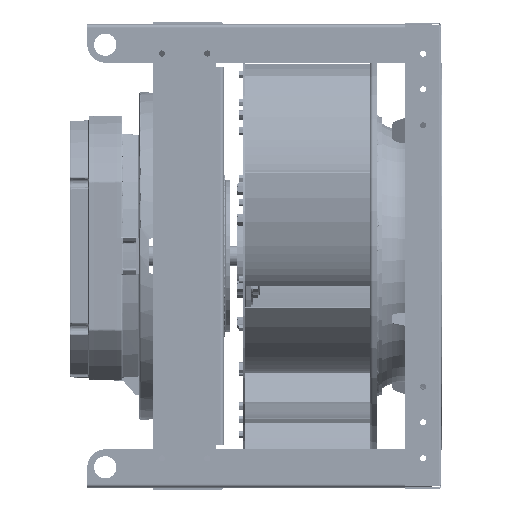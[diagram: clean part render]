
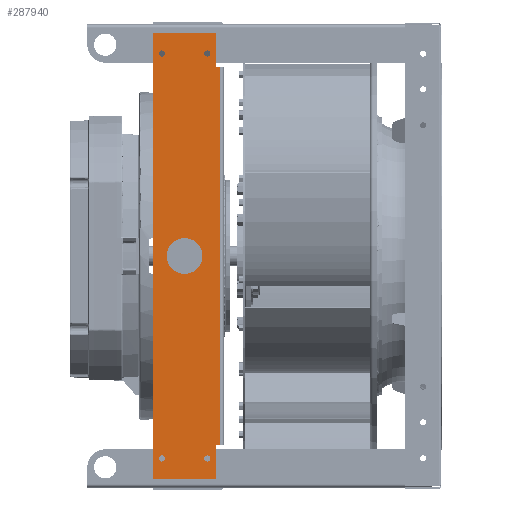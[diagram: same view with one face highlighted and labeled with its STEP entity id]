
A CAD part, front view. The second image highlights one B-rep face of the part: STEP entity #287940.
In plain terms, the highlighted planar face has unit normal (0, -1, 0) as drawn and (0, 0, 1) by its records, which use the part's own axes.
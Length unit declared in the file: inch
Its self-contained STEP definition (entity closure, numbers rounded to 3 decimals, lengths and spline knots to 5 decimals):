
#6348 = CARTESIAN_POINT ( 'NONE',  ( 11.477, -1.27, 0.135 ) ) ;
#7486 = VECTOR ( 'NONE', #222546, 39.37008 ) ;
#13004 = EDGE_LOOP ( 'NONE', ( #179804 ) ) ;
#15139 = CARTESIAN_POINT ( 'NONE',  ( 11.305, 1.27, 0.135 ) ) ;
#17347 = LINE ( 'NONE', #185831, #166985 ) ;
#18585 = AXIS2_PLACEMENT_3D ( 'NONE', #224617, #51705, #190514 ) ;
#19188 = AXIS2_PLACEMENT_3D ( 'NONE', #178562, #71657, #144390 ) ;
#22070 = VERTEX_POINT ( 'NONE', #124534 ) ;
#24883 = AXIS2_PLACEMENT_3D ( 'NONE', #15139, #295095, #153957 ) ;
#27347 = CARTESIAN_POINT ( 'NONE',  ( 10.555, 1.9775, 0.135 ) ) ;
#43781 = ORIENTED_EDGE ( 'NONE', *, *, #408233, .T. ) ;
#44405 = CARTESIAN_POINT ( 'NONE',  ( 10.555, 1.9775, 0.135 ) ) ;
#48629 = VERTEX_POINT ( 'NONE', #247630 ) ;
#49837 = ORIENTED_EDGE ( 'NONE', *, *, #81219, .F. ) ;
#51705 = DIRECTION ( 'NONE',  ( 0., 0., 1. ) ) ;
#52841 = EDGE_CURVE ( 'NONE', #198622, #198622, #291505, .T. ) ;
#57413 = DIRECTION ( 'NONE',  ( 0., -1., 0. ) ) ;
#67557 = ORIENTED_EDGE ( 'NONE', *, *, #147230, .T. ) ;
#69417 = PLANE ( 'NONE',  #19188 ) ;
#70059 = VERTEX_POINT ( 'NONE', #201464 ) ;
#71657 = DIRECTION ( 'NONE',  ( 0., 0., -1. ) ) ;
#76763 = CARTESIAN_POINT ( 'NONE',  ( -12.465, -1.77, 0.135 ) ) ;
#81219 = EDGE_CURVE ( 'NONE', #120884, #335144, #356273, .T. ) ;
#87071 = DIRECTION ( 'NONE',  ( 0., 0., 1. ) ) ;
#87155 = EDGE_CURVE ( 'NONE', #153896, #288620, #218039, .T. ) ;
#87633 = CARTESIAN_POINT ( 'NONE',  ( 12.465, -1.77, 0.135 ) ) ;
#109938 = EDGE_CURVE ( 'NONE', #168103, #168103, #446490, .T. ) ;
#110903 = CARTESIAN_POINT ( 'NONE',  ( -12.465, 1.77, 0.135 ) ) ;
#111154 = DIRECTION ( 'NONE',  ( -1., 0., 0. ) ) ;
#113475 = CARTESIAN_POINT ( 'NONE',  ( -10.555, 1.77, 0.135 ) ) ;
#116564 = VERTEX_POINT ( 'NONE', #76763 ) ;
#117604 = ORIENTED_EDGE ( 'NONE', *, *, #326311, .F. ) ;
#117887 = CARTESIAN_POINT ( 'NONE',  ( -12.465, 1.77, 0.135 ) ) ;
#120884 = VERTEX_POINT ( 'NONE', #27347 ) ;
#124104 = DIRECTION ( 'NONE',  ( 0., 0., 1. ) ) ;
#124534 = CARTESIAN_POINT ( 'NONE',  ( 1., 0., 0.135 ) ) ;
#124973 = DIRECTION ( 'NONE',  ( 0., 0., 1. ) ) ;
#129006 = ORIENTED_EDGE ( 'NONE', *, *, #174705, .F. ) ;
#144390 = DIRECTION ( 'NONE',  ( -1., 0., 0. ) ) ;
#146652 = FACE_BOUND ( 'NONE', #13004, .T. ) ;
#147230 = EDGE_CURVE ( 'NONE', #116564, #48629, #297616, .T. ) ;
#153896 = VERTEX_POINT ( 'NONE', #113475 ) ;
#153957 = DIRECTION ( 'NONE',  ( -1., 0., 0. ) ) ;
#160485 = DIRECTION ( 'NONE',  ( 1., 0., 0. ) ) ;
#166985 = VECTOR ( 'NONE', #254117, 39.37008 ) ;
#167094 = VECTOR ( 'NONE', #270102, 39.37008 ) ;
#168103 = VERTEX_POINT ( 'NONE', #275038 ) ;
#174705 = EDGE_CURVE ( 'NONE', #429812, #429812, #341788, .T. ) ;
#178562 = CARTESIAN_POINT ( 'NONE',  ( 0., 0., 0.135 ) ) ;
#179804 = ORIENTED_EDGE ( 'NONE', *, *, #109938, .F. ) ;
#183090 = FACE_BOUND ( 'NONE', #215546, .T. ) ;
#185831 = CARTESIAN_POINT ( 'NONE',  ( -10.555, 1.9775, 0.135 ) ) ;
#187088 = VECTOR ( 'NONE', #374465, 39.37008 ) ;
#189804 = AXIS2_PLACEMENT_3D ( 'NONE', #264521, #87071, #298685 ) ;
#190514 = DIRECTION ( 'NONE',  ( 1., 0., 0. ) ) ;
#195411 = EDGE_CURVE ( 'NONE', #70059, #335144, #303823, .T. ) ;
#196082 = CIRCLE ( 'NONE', #210629, 1. ) ;
#198622 = VERTEX_POINT ( 'NONE', #346439 ) ;
#201464 = CARTESIAN_POINT ( 'NONE',  ( 12.465, 1.77, 0.135 ) ) ;
#206262 = LINE ( 'NONE', #208471, #167094 ) ;
#208471 = CARTESIAN_POINT ( 'NONE',  ( 10.555, 1.9775, 0.135 ) ) ;
#210629 = AXIS2_PLACEMENT_3D ( 'NONE', #229646, #124973, #263836 ) ;
#212339 = ORIENTED_EDGE ( 'NONE', *, *, #333025, .F. ) ;
#214752 = CIRCLE ( 'NONE', #18585, 0.172 ) ;
#214921 = FACE_BOUND ( 'NONE', #408201, .T. ) ;
#215546 = EDGE_LOOP ( 'NONE', ( #212339 ) ) ;
#218039 = LINE ( 'NONE', #117887, #422269 ) ;
#221903 = DIRECTION ( 'NONE',  ( 0., 1., 0. ) ) ;
#222546 = DIRECTION ( 'NONE',  ( 1., 0., 0. ) ) ;
#224617 = CARTESIAN_POINT ( 'NONE',  ( -11.305, 1.27, 0.135 ) ) ;
#229646 = CARTESIAN_POINT ( 'NONE',  ( 0., 0., 0.135 ) ) ;
#230340 = CARTESIAN_POINT ( 'NONE',  ( -10.555, 1.9775, 0.135 ) ) ;
#244598 = FACE_OUTER_BOUND ( 'NONE', #399239, .T. ) ;
#247630 = CARTESIAN_POINT ( 'NONE',  ( 12.465, -1.77, 0.135 ) ) ;
#254117 = DIRECTION ( 'NONE',  ( 0., -1., 0. ) ) ;
#258326 = LINE ( 'NONE', #87633, #384938 ) ;
#263836 = DIRECTION ( 'NONE',  ( 1., 0., 0. ) ) ;
#264521 = CARTESIAN_POINT ( 'NONE',  ( -11.305, -1.27, 0.135 ) ) ;
#267823 = VECTOR ( 'NONE', #328810, 39.37008 ) ;
#270102 = DIRECTION ( 'NONE',  ( -1., 0., 0. ) ) ;
#271901 = CARTESIAN_POINT ( 'NONE',  ( -12.465, 1.77, 0.135 ) ) ;
#275038 = CARTESIAN_POINT ( 'NONE',  ( 11.133, 1.27, 0.135 ) ) ;
#285932 = ORIENTED_EDGE ( 'NONE', *, *, #407336, .T. ) ;
#287940 = ADVANCED_FACE ( 'NONE', ( #183090, #244598, #321940, #319676, #214921, #146652 ), #69417, .F. ) ;
#288620 = VERTEX_POINT ( 'NONE', #110903 ) ;
#290609 = ORIENTED_EDGE ( 'NONE', *, *, #365601, .T. ) ;
#291505 = CIRCLE ( 'NONE', #189804, 0.172 ) ;
#292669 = CARTESIAN_POINT ( 'NONE',  ( 11.305, -1.27, 0.135 ) ) ;
#292763 = VERTEX_POINT ( 'NONE', #230340 ) ;
#295095 = DIRECTION ( 'NONE',  ( 0., 0., 1. ) ) ;
#297548 = VERTEX_POINT ( 'NONE', #436525 ) ;
#297616 = LINE ( 'NONE', #395725, #7486 ) ;
#298685 = DIRECTION ( 'NONE',  ( -1., 0., 0. ) ) ;
#303823 = LINE ( 'NONE', #271901, #187088 ) ;
#313389 = ORIENTED_EDGE ( 'NONE', *, *, #87155, .T. ) ;
#316348 = EDGE_LOOP ( 'NONE', ( #117604 ) ) ;
#318273 = ORIENTED_EDGE ( 'NONE', *, *, #52841, .F. ) ;
#319676 = FACE_BOUND ( 'NONE', #316348, .T. ) ;
#321940 = FACE_BOUND ( 'NONE', #322980, .T. ) ;
#322980 = EDGE_LOOP ( 'NONE', ( #318273 ) ) ;
#326311 = EDGE_CURVE ( 'NONE', #297548, #297548, #214752, .T. ) ;
#328810 = DIRECTION ( 'NONE',  ( 0., -1., 0. ) ) ;
#330617 = LINE ( 'NONE', #437664, #395185 ) ;
#332875 = CARTESIAN_POINT ( 'NONE',  ( 10.555, 1.77, 0.135 ) ) ;
#333025 = EDGE_CURVE ( 'NONE', #22070, #22070, #196082, .T. ) ;
#335144 = VERTEX_POINT ( 'NONE', #332875 ) ;
#341788 = CIRCLE ( 'NONE', #400086, 0.172 ) ;
#346439 = CARTESIAN_POINT ( 'NONE',  ( -11.477, -1.27, 0.135 ) ) ;
#355897 = EDGE_CURVE ( 'NONE', #292763, #153896, #17347, .T. ) ;
#356273 = LINE ( 'NONE', #44405, #267823 ) ;
#365601 = EDGE_CURVE ( 'NONE', #288620, #116564, #330617, .T. ) ;
#374465 = DIRECTION ( 'NONE',  ( -1., 0., 0. ) ) ;
#384938 = VECTOR ( 'NONE', #221903, 39.37008 ) ;
#395185 = VECTOR ( 'NONE', #57413, 39.37008 ) ;
#395725 = CARTESIAN_POINT ( 'NONE',  ( -12.465, -1.77, 0.135 ) ) ;
#399239 = EDGE_LOOP ( 'NONE', ( #290609, #67557, #285932, #433864, #49837, #43781, #405102, #313389 ) ) ;
#400086 = AXIS2_PLACEMENT_3D ( 'NONE', #292669, #124104, #160485 ) ;
#405102 = ORIENTED_EDGE ( 'NONE', *, *, #355897, .T. ) ;
#407336 = EDGE_CURVE ( 'NONE', #48629, #70059, #258326, .T. ) ;
#408201 = EDGE_LOOP ( 'NONE', ( #129006 ) ) ;
#408233 = EDGE_CURVE ( 'NONE', #120884, #292763, #206262, .T. ) ;
#422269 = VECTOR ( 'NONE', #111154, 39.37008 ) ;
#429812 = VERTEX_POINT ( 'NONE', #6348 ) ;
#433864 = ORIENTED_EDGE ( 'NONE', *, *, #195411, .T. ) ;
#436525 = CARTESIAN_POINT ( 'NONE',  ( -11.133, 1.27, 0.135 ) ) ;
#437664 = CARTESIAN_POINT ( 'NONE',  ( -12.465, -1.77, 0.135 ) ) ;
#446490 = CIRCLE ( 'NONE', #24883, 0.172 ) ;
